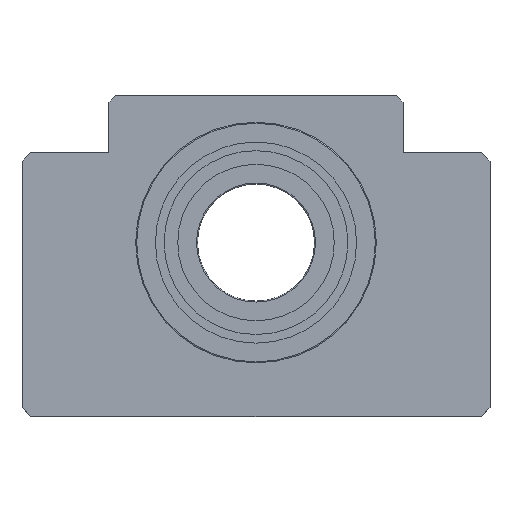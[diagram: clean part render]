
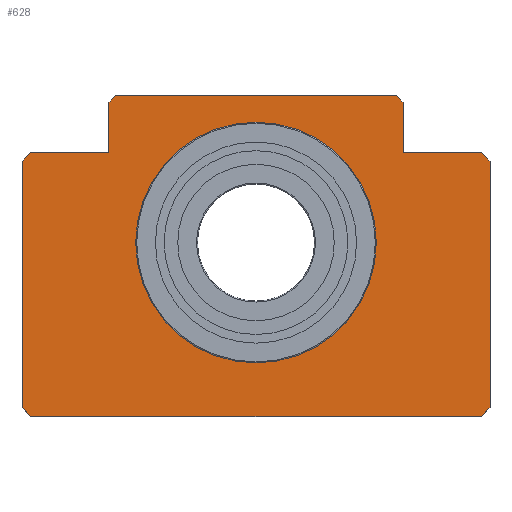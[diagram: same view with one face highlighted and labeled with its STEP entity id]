
A CAD part, top view. The second image highlights one B-rep face of the part: STEP entity #628.
In plain terms, the highlighted planar face has unit normal (0, 0, 1).
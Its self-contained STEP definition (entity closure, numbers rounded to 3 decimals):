
#52=CIRCLE('',#703,36.);
#152=ORIENTED_EDGE('',*,*,#268,.F.);
#153=ORIENTED_EDGE('',*,*,#221,.T.);
#154=ORIENTED_EDGE('',*,*,#225,.T.);
#155=ORIENTED_EDGE('',*,*,#230,.T.);
#156=ORIENTED_EDGE('',*,*,#233,.T.);
#157=ORIENTED_EDGE('',*,*,#236,.T.);
#158=ORIENTED_EDGE('',*,*,#239,.T.);
#159=ORIENTED_EDGE('',*,*,#243,.T.);
#160=ORIENTED_EDGE('',*,*,#246,.T.);
#161=ORIENTED_EDGE('',*,*,#249,.T.);
#162=ORIENTED_EDGE('',*,*,#252,.T.);
#163=ORIENTED_EDGE('',*,*,#255,.T.);
#164=ORIENTED_EDGE('',*,*,#258,.T.);
#165=ORIENTED_EDGE('',*,*,#262,.T.);
#166=ORIENTED_EDGE('',*,*,#265,.T.);
#221=EDGE_CURVE('',#293,#294,#351,.T.);
#225=EDGE_CURVE('',#294,#297,#355,.T.);
#230=EDGE_CURVE('',#297,#301,#358,.T.);
#233=EDGE_CURVE('',#301,#303,#361,.T.);
#236=EDGE_CURVE('',#303,#305,#364,.T.);
#239=EDGE_CURVE('',#305,#307,#367,.T.);
#243=EDGE_CURVE('',#307,#310,#370,.T.);
#246=EDGE_CURVE('',#310,#312,#373,.T.);
#249=EDGE_CURVE('',#312,#314,#376,.T.);
#252=EDGE_CURVE('',#314,#316,#379,.T.);
#255=EDGE_CURVE('',#316,#318,#382,.T.);
#258=EDGE_CURVE('',#318,#320,#385,.T.);
#262=EDGE_CURVE('',#320,#323,#388,.T.);
#265=EDGE_CURVE('',#323,#293,#391,.T.);
#268=EDGE_CURVE('',#326,#326,#52,.T.);
#293=VERTEX_POINT('',#954);
#294=VERTEX_POINT('',#955);
#297=VERTEX_POINT('',#963);
#301=VERTEX_POINT('',#973);
#303=VERTEX_POINT('',#979);
#305=VERTEX_POINT('',#985);
#307=VERTEX_POINT('',#991);
#310=VERTEX_POINT('',#999);
#312=VERTEX_POINT('',#1005);
#314=VERTEX_POINT('',#1011);
#316=VERTEX_POINT('',#1017);
#318=VERTEX_POINT('',#1023);
#320=VERTEX_POINT('',#1029);
#323=VERTEX_POINT('',#1037);
#326=VERTEX_POINT('',#1049);
#351=LINE('',#953,#393);
#355=LINE('',#962,#397);
#358=LINE('',#972,#400);
#361=LINE('',#978,#403);
#364=LINE('',#984,#406);
#367=LINE('',#990,#409);
#370=LINE('',#998,#412);
#373=LINE('',#1004,#415);
#376=LINE('',#1010,#418);
#379=LINE('',#1016,#421);
#382=LINE('',#1022,#424);
#385=LINE('',#1028,#427);
#388=LINE('',#1036,#430);
#391=LINE('',#1042,#433);
#393=VECTOR('',#761,1000.);
#397=VECTOR('',#767,1000.);
#400=VECTOR('',#776,1000.);
#403=VECTOR('',#781,1000.);
#406=VECTOR('',#786,1000.);
#409=VECTOR('',#791,1000.);
#412=VECTOR('',#798,1000.);
#415=VECTOR('',#803,1000.);
#418=VECTOR('',#808,1000.);
#421=VECTOR('',#813,1000.);
#424=VECTOR('',#818,1000.);
#427=VECTOR('',#823,1000.);
#430=VECTOR('',#830,1000.);
#433=VECTOR('',#835,1000.);
#455=EDGE_LOOP('',(#152));
#456=EDGE_LOOP('',(#153,#154,#155,#156,#157,#158,#159,#160,#161,#162,#163,
#164,#165,#166));
#531=FACE_BOUND('',#455,.T.);
#532=FACE_BOUND('',#456,.T.);
#602=PLANE('',#702);
#628=ADVANCED_FACE('',(#531,#532),#602,.T.);
#702=AXIS2_PLACEMENT_3D('',#1047,#841,#842);
#703=AXIS2_PLACEMENT_3D('',#1048,#843,#844);
#761=DIRECTION('',(0.,-1.,0.));
#767=DIRECTION('',(0.707,-0.707,0.));
#776=DIRECTION('',(1.,0.,0.));
#781=DIRECTION('',(0.707,0.707,0.));
#786=DIRECTION('',(0.,1.,0.));
#791=DIRECTION('',(-0.707,0.707,0.));
#798=DIRECTION('',(-1.,0.,0.));
#803=DIRECTION('',(0.,1.,0.));
#808=DIRECTION('',(-0.707,0.707,0.));
#813=DIRECTION('',(-1.,0.,0.));
#818=DIRECTION('',(-0.707,-0.707,0.));
#823=DIRECTION('',(0.,-1.,0.));
#830=DIRECTION('',(-1.,0.,0.));
#835=DIRECTION('',(-0.707,-0.707,0.));
#841=DIRECTION('',(0.,0.,1.));
#842=DIRECTION('',(1.,0.,0.));
#843=DIRECTION('',(0.,0.,1.));
#844=DIRECTION('',(1.,0.,0.));
#953=CARTESIAN_POINT('',(-70.,24.36,0.));
#954=CARTESIAN_POINT('',(-70.,24.36,0.));
#955=CARTESIAN_POINT('',(-70.,-49.36,0.));
#962=CARTESIAN_POINT('',(-70.,-49.36,0.));
#963=CARTESIAN_POINT('',(-67.36,-52.,0.));
#972=CARTESIAN_POINT('',(-67.36,-52.,0.));
#973=CARTESIAN_POINT('',(67.36,-52.,0.));
#978=CARTESIAN_POINT('',(67.36,-52.,0.));
#979=CARTESIAN_POINT('',(70.,-49.36,0.));
#984=CARTESIAN_POINT('',(70.,-49.36,0.));
#985=CARTESIAN_POINT('',(70.,24.36,0.));
#990=CARTESIAN_POINT('',(70.,24.36,0.));
#991=CARTESIAN_POINT('',(67.36,27.,0.));
#998=CARTESIAN_POINT('',(67.36,27.,0.));
#999=CARTESIAN_POINT('',(44.,27.,0.));
#1004=CARTESIAN_POINT('',(44.,27.,0.));
#1005=CARTESIAN_POINT('',(44.,42.,0.));
#1010=CARTESIAN_POINT('',(44.,42.,0.));
#1011=CARTESIAN_POINT('',(42.,44.,0.));
#1016=CARTESIAN_POINT('',(42.,44.,0.));
#1017=CARTESIAN_POINT('',(-42.,44.,0.));
#1022=CARTESIAN_POINT('',(-42.,44.,0.));
#1023=CARTESIAN_POINT('',(-44.,42.,0.));
#1028=CARTESIAN_POINT('',(-44.,42.,0.));
#1029=CARTESIAN_POINT('',(-44.,27.,0.));
#1036=CARTESIAN_POINT('',(-44.,27.,0.));
#1037=CARTESIAN_POINT('',(-67.36,27.,0.));
#1042=CARTESIAN_POINT('',(-67.36,27.,0.));
#1047=CARTESIAN_POINT('',(0.,0.,0.));
#1048=CARTESIAN_POINT('',(0.,0.,0.));
#1049=CARTESIAN_POINT('',(36.,0.,0.));
